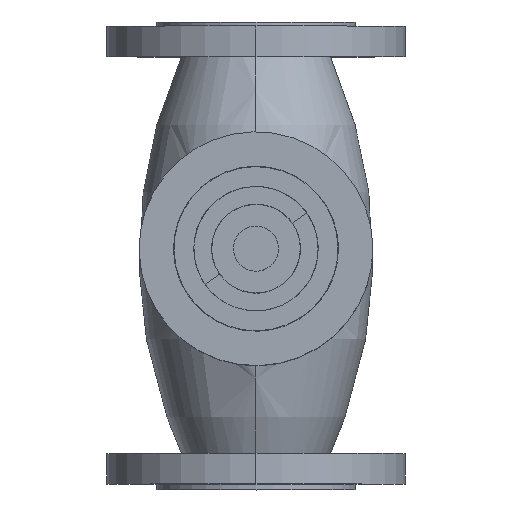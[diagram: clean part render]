
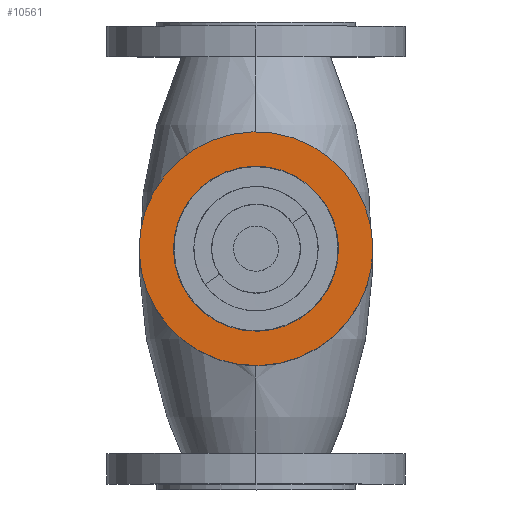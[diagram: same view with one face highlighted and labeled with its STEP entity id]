
A CAD part, top view. The second image highlights one B-rep face of the part: STEP entity #10561.
In plain terms, the highlighted planar face has unit normal (0, 0, 1).
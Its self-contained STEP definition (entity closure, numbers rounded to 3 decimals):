
#183 = CIRCLE ( 'NONE', #1594, 51.156 ) ;
#490 = EDGE_LOOP ( 'NONE', ( #10651, #3291 ) ) ;
#506 = EDGE_CURVE ( 'NONE', #600, #6490, #183, .T. ) ;
#548 = DIRECTION ( 'NONE',  ( 0., 0., -1. ) ) ;
#600 = VERTEX_POINT ( 'NONE', #5146 ) ;
#793 = AXIS2_PLACEMENT_3D ( 'NONE', #9813, #548, #1391 ) ;
#1108 = EDGE_CURVE ( 'NONE', #6490, #600, #7241, .T. ) ;
#1391 = DIRECTION ( 'NONE',  ( -1., 0., 0. ) ) ;
#1594 = AXIS2_PLACEMENT_3D ( 'NONE', #6750, #4144, #7642 ) ;
#1654 = CARTESIAN_POINT ( 'NONE',  ( 73.201, -5.933, 84.099 ) ) ;
#1740 = DIRECTION ( 'NONE',  ( -1., 0., 0. ) ) ;
#2093 = VERTEX_POINT ( 'NONE', #3118 ) ;
#2302 = CARTESIAN_POINT ( 'NONE',  ( 1.502, 4.816, 84.099 ) ) ;
#2329 = AXIS2_PLACEMENT_3D ( 'NONE', #7252, #7361, #9024 ) ;
#2406 = PLANE ( 'NONE',  #3603 ) ;
#2523 = CARTESIAN_POINT ( 'NONE',  ( 28.106, -40.14, 84.099 ) ) ;
#3118 = CARTESIAN_POINT ( 'NONE',  ( -70.196, 15.566, 84.099 ) ) ;
#3291 = ORIENTED_EDGE ( 'NONE', *, *, #1108, .T. ) ;
#3603 = AXIS2_PLACEMENT_3D ( 'NONE', #2523, #5782, #4236 ) ;
#4144 = DIRECTION ( 'NONE',  ( 0., 0., -1. ) ) ;
#4236 = DIRECTION ( 'NONE',  ( 0., -1., 0. ) ) ;
#5146 = CARTESIAN_POINT ( 'NONE',  ( 52.093, -2.769, 84.099 ) ) ;
#5194 = ORIENTED_EDGE ( 'NONE', *, *, #10926, .F. ) ;
#5252 = EDGE_CURVE ( 'NONE', #2093, #7730, #9947, .T. ) ;
#5638 = AXIS2_PLACEMENT_3D ( 'NONE', #2302, #8434, #1740 ) ;
#5782 = DIRECTION ( 'NONE',  ( 0., 0., -1. ) ) ;
#6490 = VERTEX_POINT ( 'NONE', #7346 ) ;
#6727 = FACE_OUTER_BOUND ( 'NONE', #8747, .T. ) ;
#6750 = CARTESIAN_POINT ( 'NONE',  ( 1.502, 4.816, 84.099 ) ) ;
#7241 = CIRCLE ( 'NONE', #5638, 51.156 ) ;
#7252 = CARTESIAN_POINT ( 'NONE',  ( 1.502, 4.816, 84.099 ) ) ;
#7346 = CARTESIAN_POINT ( 'NONE',  ( -49.088, 12.401, 84.099 ) ) ;
#7361 = DIRECTION ( 'NONE',  ( 0., 0., -1. ) ) ;
#7642 = DIRECTION ( 'NONE',  ( -1., 0., 0. ) ) ;
#7730 = VERTEX_POINT ( 'NONE', #1654 ) ;
#8434 = DIRECTION ( 'NONE',  ( 0., 0., -1. ) ) ;
#8747 = EDGE_LOOP ( 'NONE', ( #9655, #5194 ) ) ;
#9024 = DIRECTION ( 'NONE',  ( -1., 0., 0. ) ) ;
#9655 = ORIENTED_EDGE ( 'NONE', *, *, #5252, .F. ) ;
#9813 = CARTESIAN_POINT ( 'NONE',  ( 1.502, 4.816, 84.099 ) ) ;
#9947 = CIRCLE ( 'NONE', #2329, 72.5 ) ;
#10006 = FACE_BOUND ( 'NONE', #490, .T. ) ;
#10524 = CIRCLE ( 'NONE', #793, 72.5 ) ;
#10561 = ADVANCED_FACE ( 'NONE', ( #10006, #6727 ), #2406, .F. ) ;
#10651 = ORIENTED_EDGE ( 'NONE', *, *, #506, .T. ) ;
#10926 = EDGE_CURVE ( 'NONE', #7730, #2093, #10524, .T. ) ;
